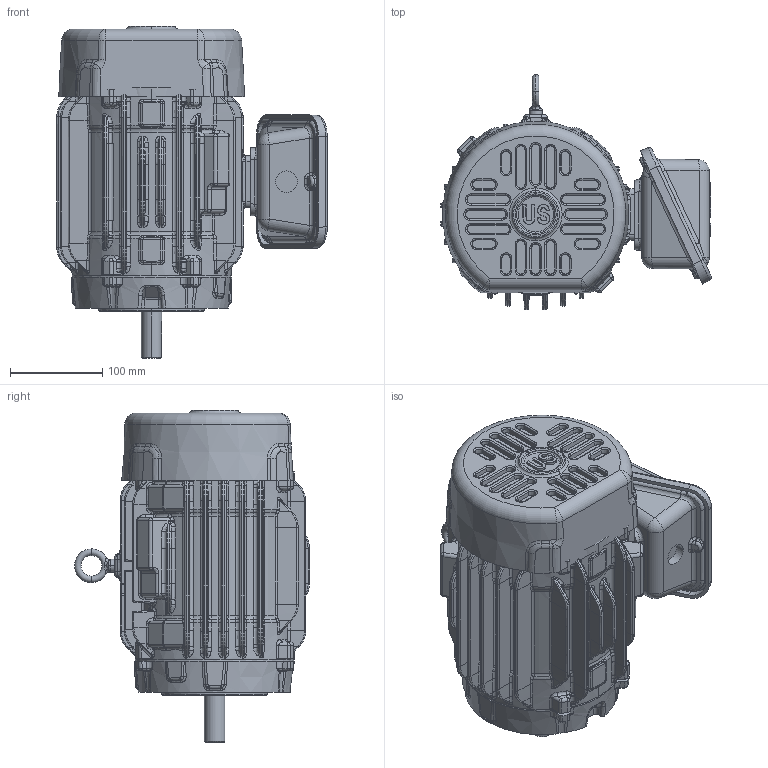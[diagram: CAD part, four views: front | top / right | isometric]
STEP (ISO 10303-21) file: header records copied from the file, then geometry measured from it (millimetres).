
FILE_DESCRIPTION((''),'2;1');
FILE_NAME('140_3D_ASM_ASM','2017-11-03T',('EMD2341'),('Nidec Motor Corporation'),'CREO PARAMETRIC BY PTC INC, 2017170','CREO PARAMETRIC BY PTC INC, 2017170','');
FILE_SCHEMA(('CONFIG_CONTROL_DESIGN'));
Length unit declared in the file: inch
Products named in the file (10): 140_FOOTLESS_FRAME; 140_CFACE_BRKT; 140_FLNG; NEW313; 140_CAST_FCVR; 140_CAST_GSK_OBB; 140_CAST_NEMA; 140_CAST_GSK_OBC; 140_CAST_OBC; 140_3D_ASM_ASM
Assembly tree (9 placements, depth 2):
  140_3D_ASM_ASM
    140_FOOTLESS_FRAME
    140_CFACE_BRKT
    140_FLNG
    NEW313
    140_CAST_FCVR
    140_CAST_GSK_OBB
    140_CAST_NEMA
    140_CAST_GSK_OBC
    140_CAST_OBC
Bounding box: 292.59 x 254.29 x 359.16 mm (x, y, z)
Volume: 9160181.4 mm3; surface area: 609958.4 mm2
Topology: 9 solids, 9 shells, 3087 faces, 7128 edges, 4098 vertices
Faces by surface type: bspline 1372, cylinder 566, plane 546, extrusion 240, torus 173, sphere 108, cone 82
Entity records: 142323 total; most frequent: CARTESIAN_POINT 82146, ORIENTED_EDGE 14240, DIRECTION 9744, EDGE_CURVE 7120, VERTEX_POINT 4098, AXIS2_PLACEMENT_3D 3693, EDGE_LOOP 3142, FACE_OUTER_BOUND 3087
